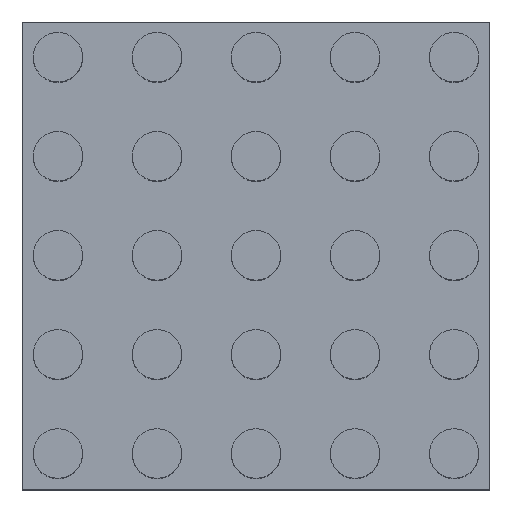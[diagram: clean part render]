
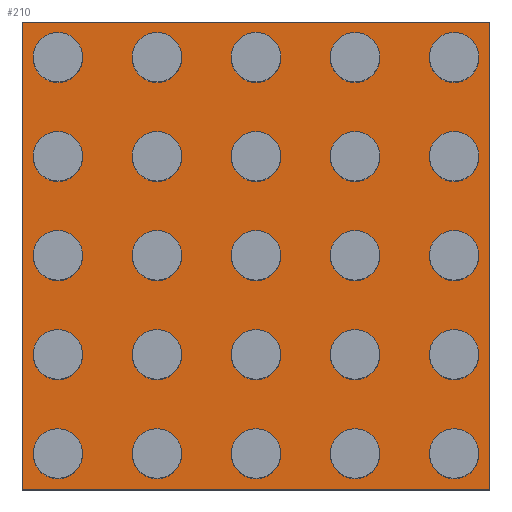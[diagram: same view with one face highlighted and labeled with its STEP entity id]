
A CAD part, top view. The second image highlights one B-rep face of the part: STEP entity #210.
In plain terms, the highlighted planar face has unit normal (0, 0, 1).
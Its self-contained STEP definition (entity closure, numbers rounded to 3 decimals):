
#100=PLANE('',#818);
#156=LINE('',#1196,#168);
#160=LINE('',#1205,#172);
#163=LINE('',#1211,#175);
#166=LINE('',#1217,#178);
#168=VECTOR('',#996,1.);
#172=VECTOR('',#1002,1.);
#175=VECTOR('',#1007,1.);
#178=VECTOR('',#1012,1.);
#210=ADVANCED_FACE('',(#311,#312,#313,#314,#315,#316,#317,#318,#319,#320,
#321,#322,#323,#324,#325,#326,#327,#328,#329,#330,#331,#332,#333,#334,#335,
#336),#100,.T.);
#311=FACE_BOUND('',#392,.T.);
#312=FACE_BOUND('',#393,.T.);
#313=FACE_BOUND('',#394,.T.);
#314=FACE_BOUND('',#395,.T.);
#315=FACE_BOUND('',#396,.T.);
#316=FACE_BOUND('',#397,.T.);
#317=FACE_BOUND('',#398,.T.);
#318=FACE_BOUND('',#399,.T.);
#319=FACE_BOUND('',#400,.T.);
#320=FACE_BOUND('',#401,.T.);
#321=FACE_BOUND('',#402,.T.);
#322=FACE_BOUND('',#403,.T.);
#323=FACE_BOUND('',#404,.T.);
#324=FACE_BOUND('',#405,.T.);
#325=FACE_BOUND('',#406,.T.);
#326=FACE_BOUND('',#407,.T.);
#327=FACE_BOUND('',#408,.T.);
#328=FACE_BOUND('',#409,.T.);
#329=FACE_BOUND('',#410,.T.);
#330=FACE_BOUND('',#411,.T.);
#331=FACE_BOUND('',#412,.T.);
#332=FACE_BOUND('',#413,.T.);
#333=FACE_BOUND('',#414,.T.);
#334=FACE_BOUND('',#415,.T.);
#335=FACE_BOUND('',#416,.T.);
#336=FACE_BOUND('',#417,.T.);
#392=EDGE_LOOP('',(#513));
#393=EDGE_LOOP('',(#514));
#394=EDGE_LOOP('',(#515));
#395=EDGE_LOOP('',(#516));
#396=EDGE_LOOP('',(#517));
#397=EDGE_LOOP('',(#518));
#398=EDGE_LOOP('',(#519));
#399=EDGE_LOOP('',(#520));
#400=EDGE_LOOP('',(#521));
#401=EDGE_LOOP('',(#522));
#402=EDGE_LOOP('',(#523));
#403=EDGE_LOOP('',(#524));
#404=EDGE_LOOP('',(#525));
#405=EDGE_LOOP('',(#526));
#406=EDGE_LOOP('',(#527));
#407=EDGE_LOOP('',(#528));
#408=EDGE_LOOP('',(#529));
#409=EDGE_LOOP('',(#530));
#410=EDGE_LOOP('',(#531));
#411=EDGE_LOOP('',(#532));
#412=EDGE_LOOP('',(#533));
#413=EDGE_LOOP('',(#534));
#414=EDGE_LOOP('',(#535));
#415=EDGE_LOOP('',(#536));
#416=EDGE_LOOP('',(#537));
#417=EDGE_LOOP('',(#538,#539,#540,#541));
#513=ORIENTED_EDGE('',*,*,#673,.F.);
#514=ORIENTED_EDGE('',*,*,#671,.F.);
#515=ORIENTED_EDGE('',*,*,#669,.F.);
#516=ORIENTED_EDGE('',*,*,#667,.F.);
#517=ORIENTED_EDGE('',*,*,#665,.F.);
#518=ORIENTED_EDGE('',*,*,#663,.F.);
#519=ORIENTED_EDGE('',*,*,#661,.F.);
#520=ORIENTED_EDGE('',*,*,#659,.F.);
#521=ORIENTED_EDGE('',*,*,#657,.F.);
#522=ORIENTED_EDGE('',*,*,#655,.F.);
#523=ORIENTED_EDGE('',*,*,#653,.F.);
#524=ORIENTED_EDGE('',*,*,#651,.F.);
#525=ORIENTED_EDGE('',*,*,#649,.F.);
#526=ORIENTED_EDGE('',*,*,#647,.F.);
#527=ORIENTED_EDGE('',*,*,#645,.F.);
#528=ORIENTED_EDGE('',*,*,#643,.F.);
#529=ORIENTED_EDGE('',*,*,#641,.F.);
#530=ORIENTED_EDGE('',*,*,#639,.F.);
#531=ORIENTED_EDGE('',*,*,#637,.F.);
#532=ORIENTED_EDGE('',*,*,#635,.F.);
#533=ORIENTED_EDGE('',*,*,#633,.F.);
#534=ORIENTED_EDGE('',*,*,#631,.F.);
#535=ORIENTED_EDGE('',*,*,#629,.F.);
#536=ORIENTED_EDGE('',*,*,#627,.F.);
#537=ORIENTED_EDGE('',*,*,#625,.F.);
#538=ORIENTED_EDGE('',*,*,#675,.T.);
#539=ORIENTED_EDGE('',*,*,#679,.T.);
#540=ORIENTED_EDGE('',*,*,#682,.T.);
#541=ORIENTED_EDGE('',*,*,#685,.T.);
#567=VERTEX_POINT('',#1072);
#569=VERTEX_POINT('',#1077);
#571=VERTEX_POINT('',#1082);
#573=VERTEX_POINT('',#1087);
#575=VERTEX_POINT('',#1092);
#577=VERTEX_POINT('',#1097);
#579=VERTEX_POINT('',#1102);
#581=VERTEX_POINT('',#1107);
#583=VERTEX_POINT('',#1112);
#585=VERTEX_POINT('',#1117);
#587=VERTEX_POINT('',#1122);
#589=VERTEX_POINT('',#1127);
#591=VERTEX_POINT('',#1132);
#593=VERTEX_POINT('',#1137);
#595=VERTEX_POINT('',#1142);
#597=VERTEX_POINT('',#1147);
#599=VERTEX_POINT('',#1152);
#601=VERTEX_POINT('',#1157);
#603=VERTEX_POINT('',#1162);
#605=VERTEX_POINT('',#1167);
#607=VERTEX_POINT('',#1172);
#609=VERTEX_POINT('',#1177);
#611=VERTEX_POINT('',#1182);
#613=VERTEX_POINT('',#1187);
#615=VERTEX_POINT('',#1192);
#617=VERTEX_POINT('',#1197);
#618=VERTEX_POINT('',#1198);
#621=VERTEX_POINT('',#1206);
#623=VERTEX_POINT('',#1212);
#625=EDGE_CURVE('',#567,#567,#687,.T.);
#627=EDGE_CURVE('',#569,#569,#689,.T.);
#629=EDGE_CURVE('',#571,#571,#691,.T.);
#631=EDGE_CURVE('',#573,#573,#693,.T.);
#633=EDGE_CURVE('',#575,#575,#695,.T.);
#635=EDGE_CURVE('',#577,#577,#697,.T.);
#637=EDGE_CURVE('',#579,#579,#699,.T.);
#639=EDGE_CURVE('',#581,#581,#701,.T.);
#641=EDGE_CURVE('',#583,#583,#703,.T.);
#643=EDGE_CURVE('',#585,#585,#705,.T.);
#645=EDGE_CURVE('',#587,#587,#707,.T.);
#647=EDGE_CURVE('',#589,#589,#709,.T.);
#649=EDGE_CURVE('',#591,#591,#711,.T.);
#651=EDGE_CURVE('',#593,#593,#713,.T.);
#653=EDGE_CURVE('',#595,#595,#715,.T.);
#655=EDGE_CURVE('',#597,#597,#717,.T.);
#657=EDGE_CURVE('',#599,#599,#719,.T.);
#659=EDGE_CURVE('',#601,#601,#721,.T.);
#661=EDGE_CURVE('',#603,#603,#723,.T.);
#663=EDGE_CURVE('',#605,#605,#725,.T.);
#665=EDGE_CURVE('',#607,#607,#727,.T.);
#667=EDGE_CURVE('',#609,#609,#729,.T.);
#669=EDGE_CURVE('',#611,#611,#731,.T.);
#671=EDGE_CURVE('',#613,#613,#733,.T.);
#673=EDGE_CURVE('',#615,#615,#735,.T.);
#675=EDGE_CURVE('',#617,#618,#156,.T.);
#679=EDGE_CURVE('',#618,#621,#160,.T.);
#682=EDGE_CURVE('',#621,#623,#163,.T.);
#685=EDGE_CURVE('',#623,#617,#166,.T.);
#687=CIRCLE('',#738,0.9);
#689=CIRCLE('',#741,0.9);
#691=CIRCLE('',#744,0.9);
#693=CIRCLE('',#747,0.9);
#695=CIRCLE('',#750,0.9);
#697=CIRCLE('',#753,0.9);
#699=CIRCLE('',#756,0.9);
#701=CIRCLE('',#759,0.9);
#703=CIRCLE('',#762,0.9);
#705=CIRCLE('',#765,0.9);
#707=CIRCLE('',#768,0.9);
#709=CIRCLE('',#771,0.9);
#711=CIRCLE('',#774,0.9);
#713=CIRCLE('',#777,0.9);
#715=CIRCLE('',#780,0.9);
#717=CIRCLE('',#783,0.9);
#719=CIRCLE('',#786,0.9);
#721=CIRCLE('',#789,0.9);
#723=CIRCLE('',#792,0.9);
#725=CIRCLE('',#795,0.9);
#727=CIRCLE('',#798,0.9);
#729=CIRCLE('',#801,0.9);
#731=CIRCLE('',#804,0.9);
#733=CIRCLE('',#807,0.9);
#735=CIRCLE('',#810,0.9);
#738=AXIS2_PLACEMENT_3D('',#1071,#846,#847);
#741=AXIS2_PLACEMENT_3D('',#1076,#852,#853);
#744=AXIS2_PLACEMENT_3D('',#1081,#858,#859);
#747=AXIS2_PLACEMENT_3D('',#1086,#864,#865);
#750=AXIS2_PLACEMENT_3D('',#1091,#870,#871);
#753=AXIS2_PLACEMENT_3D('',#1096,#876,#877);
#756=AXIS2_PLACEMENT_3D('',#1101,#882,#883);
#759=AXIS2_PLACEMENT_3D('',#1106,#888,#889);
#762=AXIS2_PLACEMENT_3D('',#1111,#894,#895);
#765=AXIS2_PLACEMENT_3D('',#1116,#900,#901);
#768=AXIS2_PLACEMENT_3D('',#1121,#906,#907);
#771=AXIS2_PLACEMENT_3D('',#1126,#912,#913);
#774=AXIS2_PLACEMENT_3D('',#1131,#918,#919);
#777=AXIS2_PLACEMENT_3D('',#1136,#924,#925);
#780=AXIS2_PLACEMENT_3D('',#1141,#930,#931);
#783=AXIS2_PLACEMENT_3D('',#1146,#936,#937);
#786=AXIS2_PLACEMENT_3D('',#1151,#942,#943);
#789=AXIS2_PLACEMENT_3D('',#1156,#948,#949);
#792=AXIS2_PLACEMENT_3D('',#1161,#954,#955);
#795=AXIS2_PLACEMENT_3D('',#1166,#960,#961);
#798=AXIS2_PLACEMENT_3D('',#1171,#966,#967);
#801=AXIS2_PLACEMENT_3D('',#1176,#972,#973);
#804=AXIS2_PLACEMENT_3D('',#1181,#978,#979);
#807=AXIS2_PLACEMENT_3D('',#1186,#984,#985);
#810=AXIS2_PLACEMENT_3D('',#1191,#990,#991);
#818=AXIS2_PLACEMENT_3D('',#1221,#1018,#1019);
#846=DIRECTION('',(0.,0.,1.));
#847=DIRECTION('',(1.,0.,0.));
#852=DIRECTION('',(0.,0.,1.));
#853=DIRECTION('',(1.,0.,0.));
#858=DIRECTION('',(0.,0.,1.));
#859=DIRECTION('',(1.,0.,0.));
#864=DIRECTION('',(0.,0.,1.));
#865=DIRECTION('',(1.,0.,0.));
#870=DIRECTION('',(0.,0.,1.));
#871=DIRECTION('',(1.,0.,0.));
#876=DIRECTION('',(0.,0.,1.));
#877=DIRECTION('',(1.,0.,0.));
#882=DIRECTION('',(0.,0.,1.));
#883=DIRECTION('',(1.,0.,0.));
#888=DIRECTION('',(0.,0.,1.));
#889=DIRECTION('',(1.,0.,0.));
#894=DIRECTION('',(0.,0.,1.));
#895=DIRECTION('',(1.,0.,0.));
#900=DIRECTION('',(0.,0.,1.));
#901=DIRECTION('',(1.,0.,0.));
#906=DIRECTION('',(0.,0.,1.));
#907=DIRECTION('',(1.,0.,0.));
#912=DIRECTION('',(0.,0.,1.));
#913=DIRECTION('',(1.,0.,0.));
#918=DIRECTION('',(0.,0.,1.));
#919=DIRECTION('',(1.,0.,0.));
#924=DIRECTION('',(0.,0.,1.));
#925=DIRECTION('',(1.,0.,0.));
#930=DIRECTION('',(0.,0.,1.));
#931=DIRECTION('',(1.,0.,0.));
#936=DIRECTION('',(0.,0.,1.));
#937=DIRECTION('',(1.,0.,0.));
#942=DIRECTION('',(0.,0.,1.));
#943=DIRECTION('',(1.,0.,0.));
#948=DIRECTION('',(0.,0.,1.));
#949=DIRECTION('',(1.,0.,0.));
#954=DIRECTION('',(0.,0.,1.));
#955=DIRECTION('',(1.,0.,0.));
#960=DIRECTION('',(0.,0.,1.));
#961=DIRECTION('',(1.,0.,0.));
#966=DIRECTION('',(0.,0.,1.));
#967=DIRECTION('',(1.,0.,0.));
#972=DIRECTION('',(0.,0.,1.));
#973=DIRECTION('',(1.,0.,0.));
#978=DIRECTION('',(0.,0.,1.));
#979=DIRECTION('',(1.,0.,0.));
#984=DIRECTION('',(0.,0.,1.));
#985=DIRECTION('',(1.,0.,0.));
#990=DIRECTION('',(0.,0.,1.));
#991=DIRECTION('',(1.,0.,0.));
#996=DIRECTION('',(0.,1.,0.));
#1002=DIRECTION('',(-1.,0.,0.));
#1007=DIRECTION('',(0.,-1.,0.));
#1012=DIRECTION('',(1.,0.,0.));
#1018=DIRECTION('',(0.,0.,1.));
#1019=DIRECTION('',(1.,0.,0.));
#1071=CARTESIAN_POINT('',(7.2,10.8,0.));
#1072=CARTESIAN_POINT('',(8.1,10.8,0.));
#1076=CARTESIAN_POINT('',(10.8,10.8,0.));
#1077=CARTESIAN_POINT('',(11.7,10.8,0.));
#1081=CARTESIAN_POINT('',(14.4,7.2,0.));
#1082=CARTESIAN_POINT('',(15.3,7.2,0.));
#1086=CARTESIAN_POINT('',(3.6,10.8,0.));
#1087=CARTESIAN_POINT('',(4.5,10.8,0.));
#1091=CARTESIAN_POINT('',(3.6,3.6,0.));
#1092=CARTESIAN_POINT('',(4.5,3.6,0.));
#1096=CARTESIAN_POINT('',(10.8,7.2,0.));
#1097=CARTESIAN_POINT('',(11.7,7.2,0.));
#1101=CARTESIAN_POINT('',(14.4,0.,0.));
#1102=CARTESIAN_POINT('',(15.3,0.,0.));
#1106=CARTESIAN_POINT('',(7.2,0.,0.));
#1107=CARTESIAN_POINT('',(8.1,0.,0.));
#1111=CARTESIAN_POINT('',(10.8,14.4,0.));
#1112=CARTESIAN_POINT('',(11.7,14.4,0.));
#1116=CARTESIAN_POINT('',(14.4,14.4,0.));
#1117=CARTESIAN_POINT('',(15.3,14.4,0.));
#1121=CARTESIAN_POINT('',(10.8,0.,0.));
#1122=CARTESIAN_POINT('',(11.7,0.,0.));
#1126=CARTESIAN_POINT('',(7.2,14.4,0.));
#1127=CARTESIAN_POINT('',(8.1,14.4,0.));
#1131=CARTESIAN_POINT('',(10.8,3.6,0.));
#1132=CARTESIAN_POINT('',(11.7,3.6,0.));
#1136=CARTESIAN_POINT('',(14.4,3.6,0.));
#1137=CARTESIAN_POINT('',(15.3,3.6,0.));
#1141=CARTESIAN_POINT('',(7.2,7.2,0.));
#1142=CARTESIAN_POINT('',(8.1,7.2,0.));
#1146=CARTESIAN_POINT('',(14.4,10.8,0.));
#1147=CARTESIAN_POINT('',(15.3,10.8,0.));
#1151=CARTESIAN_POINT('',(0.,14.4,0.));
#1152=CARTESIAN_POINT('',(0.9,14.4,0.));
#1156=CARTESIAN_POINT('',(3.6,14.4,0.));
#1157=CARTESIAN_POINT('',(4.5,14.4,0.));
#1161=CARTESIAN_POINT('',(3.6,7.2,0.));
#1162=CARTESIAN_POINT('',(4.5,7.2,0.));
#1166=CARTESIAN_POINT('',(7.2,3.6,0.));
#1167=CARTESIAN_POINT('',(8.1,3.6,0.));
#1171=CARTESIAN_POINT('',(0.,3.6,0.));
#1172=CARTESIAN_POINT('',(0.9,3.6,0.));
#1176=CARTESIAN_POINT('',(0.,0.,0.));
#1177=CARTESIAN_POINT('',(0.9,0.,0.));
#1181=CARTESIAN_POINT('',(0.,10.8,0.));
#1182=CARTESIAN_POINT('',(0.9,10.8,0.));
#1186=CARTESIAN_POINT('',(3.6,0.,0.));
#1187=CARTESIAN_POINT('',(4.5,0.,0.));
#1191=CARTESIAN_POINT('',(0.,7.2,0.));
#1192=CARTESIAN_POINT('',(0.9,7.2,0.));
#1196=CARTESIAN_POINT('',(15.7,-1.3,0.));
#1197=CARTESIAN_POINT('',(15.7,-1.3,0.));
#1198=CARTESIAN_POINT('',(15.7,15.7,0.));
#1205=CARTESIAN_POINT('',(15.7,15.7,0.));
#1206=CARTESIAN_POINT('',(-1.3,15.7,0.));
#1211=CARTESIAN_POINT('',(-1.3,15.7,0.));
#1212=CARTESIAN_POINT('',(-1.3,-1.3,0.));
#1217=CARTESIAN_POINT('',(-1.3,-1.3,0.));
#1221=CARTESIAN_POINT('',(0.,0.,0.));
